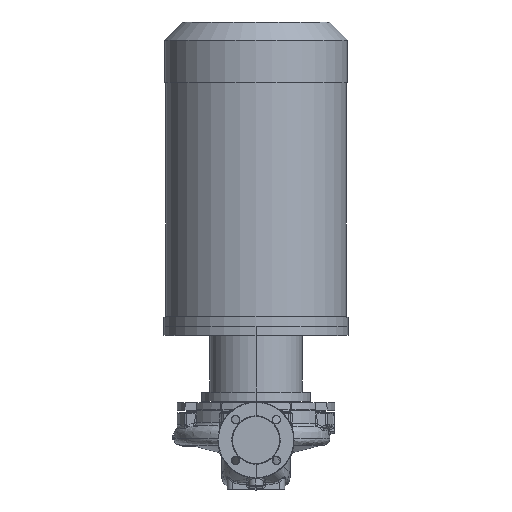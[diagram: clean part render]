
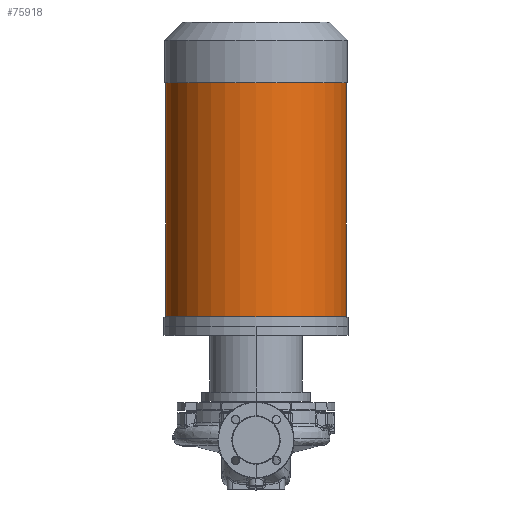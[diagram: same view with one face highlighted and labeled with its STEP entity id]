
A CAD part, top view. The second image highlights one B-rep face of the part: STEP entity #75918.
In plain terms, the highlighted cylindrical face has radius 195.5 mm (diameter 391 mm), a partial arc.
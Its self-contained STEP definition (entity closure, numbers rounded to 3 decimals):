
#929 = LINE ( 'NONE', #19386, #75455 ) ;
#1733 = DIRECTION ( 'NONE',  ( 0., -1., 0. ) ) ;
#8089 = EDGE_CURVE ( 'NONE', #34754, #52925, #9032, .T. ) ;
#9032 = CIRCLE ( 'NONE', #40043, 195.5 ) ;
#10826 = ORIENTED_EDGE ( 'NONE', *, *, #58556, .T. ) ;
#11519 = EDGE_CURVE ( 'NONE', #28005, #64989, #61891, .T. ) ;
#13707 = ORIENTED_EDGE ( 'NONE', *, *, #11519, .T. ) ;
#14444 = CARTESIAN_POINT ( 'NONE',  ( -195.5, 267.3, 0. ) ) ;
#16143 = CARTESIAN_POINT ( 'NONE',  ( 0., 267.3, 0. ) ) ;
#19219 = CARTESIAN_POINT ( 'NONE',  ( 0., 775.3, 0. ) ) ;
#19386 = CARTESIAN_POINT ( 'NONE',  ( -195.5, 247.3, 0. ) ) ;
#25276 = DIRECTION ( 'NONE',  ( -1., 0., 0. ) ) ;
#26331 = VECTOR ( 'NONE', #30309, 1000. ) ;
#28005 = VERTEX_POINT ( 'NONE', #53134 ) ;
#30309 = DIRECTION ( 'NONE',  ( 0., -1., 0. ) ) ;
#34584 = DIRECTION ( 'NONE',  ( -1., 0., 0. ) ) ;
#34754 = VERTEX_POINT ( 'NONE', #54438 ) ;
#40043 = AXIS2_PLACEMENT_3D ( 'NONE', #16143, #64704, #34584 ) ;
#42526 = ORIENTED_EDGE ( 'NONE', *, *, #8089, .F. ) ;
#46297 = ORIENTED_EDGE ( 'NONE', *, *, #49744, .F. ) ;
#47275 = AXIS2_PLACEMENT_3D ( 'NONE', #66945, #55067, #72769 ) ;
#49020 = LINE ( 'NONE', #54101, #26331 ) ;
#49744 = EDGE_CURVE ( 'NONE', #28005, #34754, #49020, .T. ) ;
#49783 = CARTESIAN_POINT ( 'NONE',  ( -195.5, 775.3, 0. ) ) ;
#51935 = AXIS2_PLACEMENT_3D ( 'NONE', #19219, #61454, #25276 ) ;
#52803 = FACE_OUTER_BOUND ( 'NONE', #60914, .T. ) ;
#52925 = VERTEX_POINT ( 'NONE', #14444 ) ;
#53134 = CARTESIAN_POINT ( 'NONE',  ( 195.5, 775.3, 0. ) ) ;
#54101 = CARTESIAN_POINT ( 'NONE',  ( 195.5, 247.3, 0. ) ) ;
#54438 = CARTESIAN_POINT ( 'NONE',  ( 195.5, 267.3, 0. ) ) ;
#54740 = CYLINDRICAL_SURFACE ( 'NONE', #47275, 195.5 ) ;
#55067 = DIRECTION ( 'NONE',  ( 0., -1., 0. ) ) ;
#58556 = EDGE_CURVE ( 'NONE', #64989, #52925, #929, .T. ) ;
#60914 = EDGE_LOOP ( 'NONE', ( #46297, #13707, #10826, #42526 ) ) ;
#61454 = DIRECTION ( 'NONE',  ( 0., -1., 0. ) ) ;
#61891 = CIRCLE ( 'NONE', #51935, 195.5 ) ;
#64704 = DIRECTION ( 'NONE',  ( 0., -1., 0. ) ) ;
#64989 = VERTEX_POINT ( 'NONE', #49783 ) ;
#66945 = CARTESIAN_POINT ( 'NONE',  ( 0., 247.3, 0. ) ) ;
#72769 = DIRECTION ( 'NONE',  ( -1., 0., 0. ) ) ;
#75455 = VECTOR ( 'NONE', #1733, 1000. ) ;
#75918 = ADVANCED_FACE ( 'NONE', ( #52803 ), #54740, .T. ) ;
